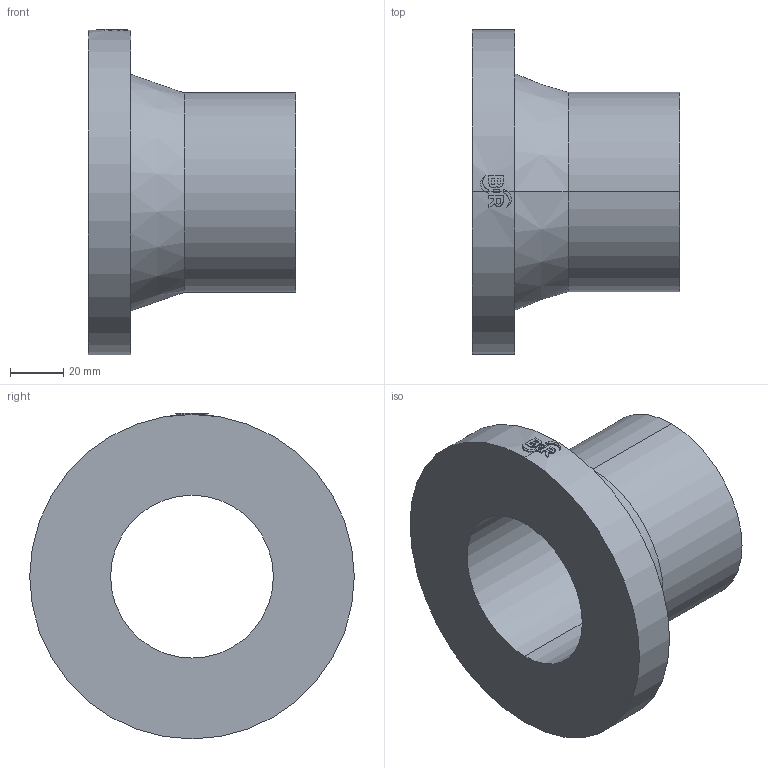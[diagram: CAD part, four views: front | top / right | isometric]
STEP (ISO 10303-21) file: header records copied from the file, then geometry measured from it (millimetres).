
FILE_DESCRIPTION (( 'STEP AP214' ), '1' );
FILE_NAME ('233512F015.STEP', '2018-07-20T09:48:46', ( '' ), ( '' ), 'SwSTEP 2.0', 'SolidWorks 2017', '' );
FILE_SCHEMA (( 'AUTOMOTIVE_DESIGN' ));
Length unit declared in the file: millimetre
Products named in the file (1): 233512F015
Bounding box: 78 x 122 x 122.5 mm (x, y, z)
Volume: 249039.5 mm3; surface area: 52227.3 mm2
Topology: 1 solids, 1 shells, 60 faces, 154 edges, 102 vertices
Faces by surface type: cylinder 29, plane 29, cone 2
Entity records: 2822 total; most frequent: CARTESIAN_POINT 705, ORIENTED_EDGE 308, DIRECTION 282, EDGE_CURVE 154, AXIS2_PLACEMENT_3D 107, VERTEX_POINT 102, EDGE_LOOP 68, VECTOR 68
